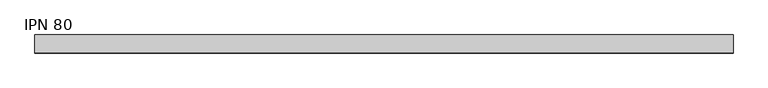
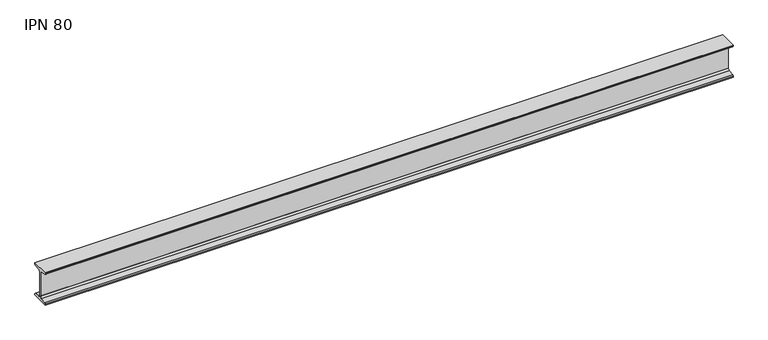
"""IFC4 building model written with IfcOpenShell, lengths in millimetres: beam geometry, IPN - Secciones en I con alas cónicas : IPN 80."""

from ifc_helpers import new_model, si_unit, point, frame, frame_2d, origin, place, context, project, spatial, polyline, circle_curve, trimmed, segment, composite_curve, outline, extrude, source, transform, mapped, element, save


def ipn_80_ebfddedf(model_context):
    return source(origin(), model_context, "Body", "SweptSolid", [
        extrude(outline(composite_curve([segment(polyline([(21.0, 40.0), (21.0, 37.5704306)]), True, "CONTINUOUS"), segment(trimmed(circle_curve(frame_2d((18.7, 37.5704306)), 2.3), [point((21.0, 37.5704306))], [point((19.01889, 35.2926446))], False, "CARTESIAN"), True, "CONTINUOUS"), segment(polyline([(19.01889, 35.2926446), (5.3092734, 33.3732983)]), True, "CONTINUOUS"), segment(trimmed(circle_curve(frame_2d((5.85, 29.5109655)), 3.9), [point((5.3092734, 33.3732983))], [point((1.95, 29.5109655))], True, "CARTESIAN"), True, "CONTINUOUS"), segment(polyline([(1.95, 29.5109655), (1.95, -29.5109655)]), True, "CONTINUOUS"), segment(trimmed(circle_curve(frame_2d((5.85, -29.5109655)), 3.9), [point((1.95, -29.5109655))], [point((5.3092734, -33.3732983))], True, "CARTESIAN"), True, "CONTINUOUS"), segment(polyline([(5.3092734, -33.3732983), (19.01889, -35.2926446)]), True, "CONTINUOUS"), segment(trimmed(circle_curve(frame_2d((18.7, -37.5704306)), 2.3), [point((19.01889, -35.2926446))], [point((21.0, -37.5704306))], False, "CARTESIAN"), True, "CONTINUOUS"), segment(polyline([(21.0, -37.5704306), (21.0, -40.0), (-21.0, -40.0), (-21.0, -37.5704306)]), True, "CONTINUOUS"), segment(trimmed(circle_curve(frame_2d((-18.7, -37.5704306)), 2.3), [point((-21.0, -37.5704306))], [point((-19.01889, -35.2926446))], False, "CARTESIAN"), True, "CONTINUOUS"), segment(polyline([(-19.01889, -35.2926446), (-5.3092734, -33.3732983)]), True, "CONTINUOUS"), segment(trimmed(circle_curve(frame_2d((-5.85, -29.5109655)), 3.9), [point((-5.3092734, -33.3732983))], [point((-1.95, -29.5109655))], True, "CARTESIAN"), True, "CONTINUOUS"), segment(polyline([(-1.95, -29.5109655), (-1.95, 29.5109655)]), True, "CONTINUOUS"), segment(trimmed(circle_curve(frame_2d((-5.85, 29.5109655)), 3.9), [point((-1.95, 29.5109655))], [point((-5.3092734, 33.3732983))], True, "CARTESIAN"), True, "CONTINUOUS"), segment(polyline([(-5.3092734, 33.3732983), (-19.01889, 35.2926446)]), True, "CONTINUOUS"), segment(trimmed(circle_curve(frame_2d((-18.7, 37.5704306)), 2.3), [point((-19.01889, 35.2926446))], [point((-21.0, 37.5704306))], False, "CARTESIAN"), True, "CONTINUOUS"), segment(polyline([(-21.0, 37.5704306), (-21.0, 40.0), (21.0, 40.0)]), True, "CONTINUOUS")], self_intersect=False)), frame((-805.0, 0.0, 0.0), z_axis=(1.0, 0.0, 0.0), x_axis=(0.0, 1.0, 0.0)), (0.0, 0.0, 1.0), 1621.0),
    ])


if __name__ == "__main__":
    model = new_model("IFC4")
    model_context = context("Model", 3, world=origin())
    ifc_project = project(units=[si_unit("LENGTHUNIT", "METRE", prefix="MILLI")], contexts=[model_context])
    site = spatial("IfcSite", under=ifc_project)
    building = spatial("IfcBuilding", under=site)
    placement = place(None, origin())
    ipn_80_shape = ipn_80_ebfddedf(model_context)
    element("IfcBeam", 1, ObjectType="IPN - Secciones en I con alas cónicas : IPN 80", at=placement, inside=building, context=model_context, shape_type="MappedRepresentation", body=[
        mapped(ipn_80_shape, transform((0.0, 0.0, 0.0), x_axis=(1.0, 0.0, 0.0), y_axis=(0.0, 1.0, 0.0), z_axis=(0.0, 0.0, 1.0))),
    ])
    save(model, "model.ifc")
